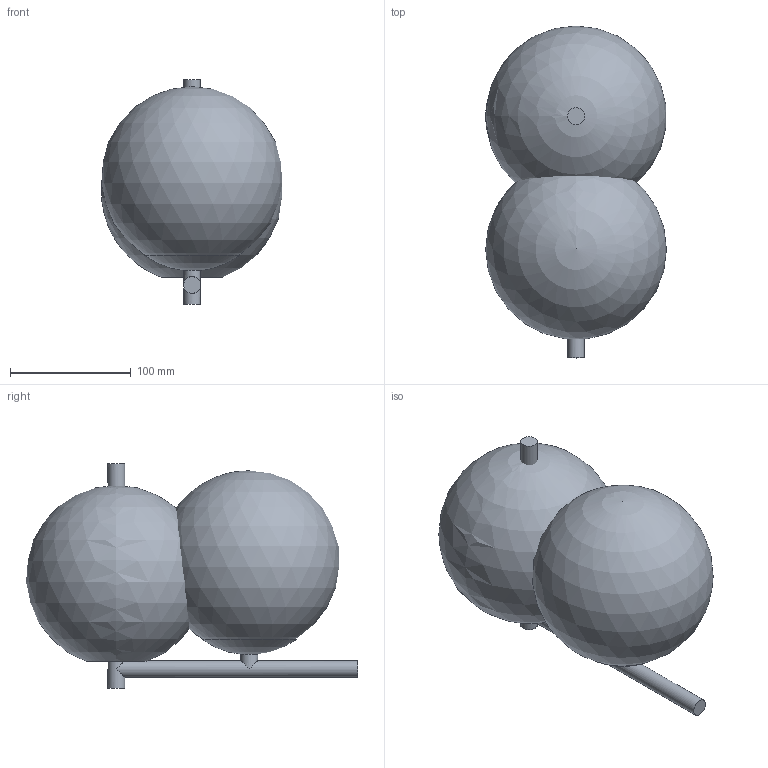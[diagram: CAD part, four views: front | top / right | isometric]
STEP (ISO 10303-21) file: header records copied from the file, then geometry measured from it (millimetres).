
FILE_DESCRIPTION( ( 'STEP AP203' ), '1' );
FILE_NAME( '//srvbf/BF Disegni/ATHENA/ATHENA-A Applique 3D.stp', '2020-10-16T09:57:31', ( ' ' ), ( ' ' ), 'XStep 1.0', ' ', ' ' );
FILE_SCHEMA( ( 'CONFIG_CONTROL_DESIGN) ( )' ) );
Length unit declared in the file: metre
Products named in the file (5): Assem1; 1; 2; 3; 4
Bounding box: 149.8 x 274.85 x 186 mm (x, y, z)
Volume: 294646.4 mm3; surface area: 371279.1 mm2
Topology: 8 solids, 8 shells, 76 faces, 160 edges, 102 vertices
Faces by surface type: cylinder 34, plane 30, sphere 8, torus 4
Full cylindrical faces by diameter (mm): 0.797 x2, 4 x4, 8.917 x6, 10 x2, 10.5 x4, 14 x10, 48 x2, 82 x2, 85 x2
Entity records: 1272 total; most frequent: CARTESIAN_POINT 349, DIRECTION 164, ORIENTED_EDGE 86, AXIS2_PLACEMENT_3D 82, EDGE_LOOP 78, FACE_OUTER_BOUND 59, EDGE_CURVE 43, VERTEX_POINT 43
